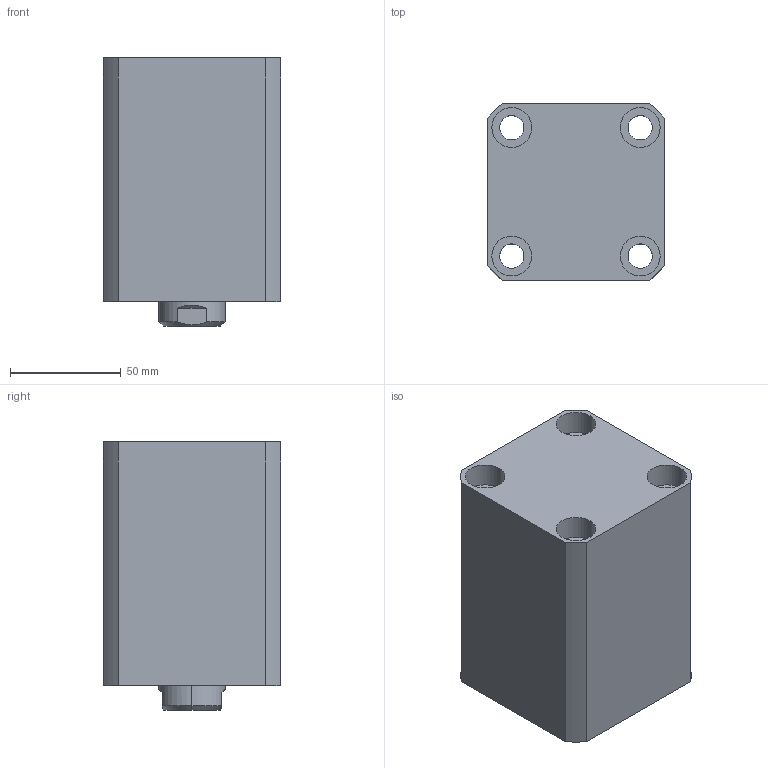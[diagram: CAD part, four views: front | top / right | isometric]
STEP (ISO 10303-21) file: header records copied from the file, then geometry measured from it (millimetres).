
FILE_DESCRIPTION (( 'STEP AP203' ), '1' );
FILE_NAME ('CHTB-SD50-50N.STEP', '2018-05-18T12:42:22', ( '' ), ( '' ), 'SwSTEP 2.0', 'SolidWorks 2015', '' );
FILE_SCHEMA (( 'CONFIG_CONTROL_DESIGN' ));
Length unit declared in the file: millimetre
Products named in the file (4): CHTB-SD50-50N; 掛极SD50-50N; CHTM-SD50QG; 活塞杆SD50-50N
Assembly tree (3 placements, depth 2):
  CHTB-SD50-50N
    掛极SD50-50N
    活塞杆SD50-50N
    CHTM-SD50QG
Bounding box: 80 x 80 x 121 mm (x, y, z)
Volume: 567872.2 mm3; surface area: 113044.1 mm2
Topology: 3 solids, 3 shells, 194 faces, 499 edges, 330 vertices
Faces by surface type: cylinder 104, plane 39, cone 21, torus 16, bspline 14
Entity records: 10789 total; most frequent: CARTESIAN_POINT 5840, ORIENTED_EDGE 986, DIRECTION 914, EDGE_CURVE 493, AXIS2_PLACEMENT_3D 383, VERTEX_POINT 330, EDGE_LOOP 233, CIRCLE 197
